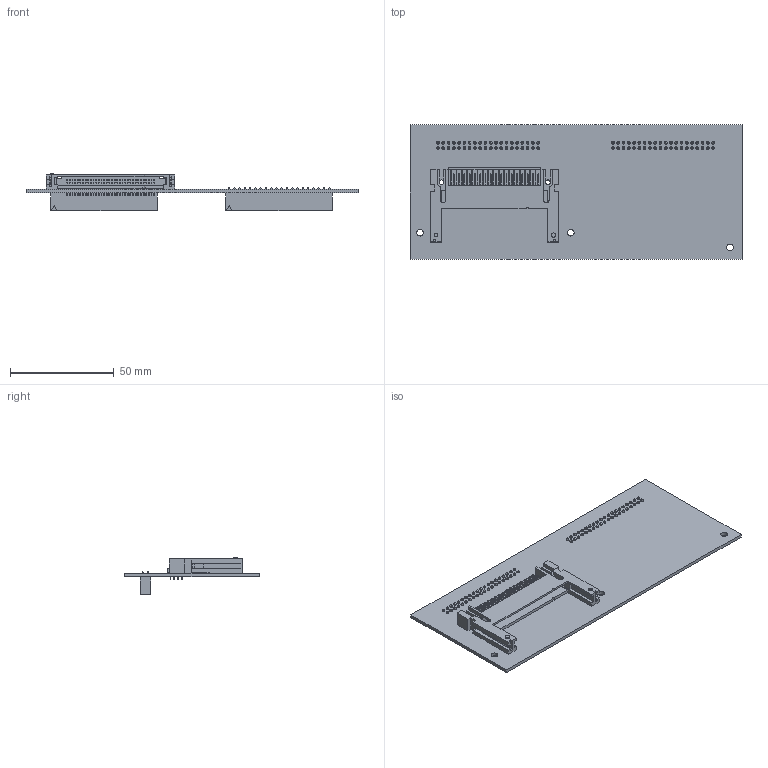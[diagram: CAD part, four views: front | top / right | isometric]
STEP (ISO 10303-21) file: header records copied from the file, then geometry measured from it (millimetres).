
FILE_DESCRIPTION(('KiCad electronic assembly'),'2;1');
FILE_NAME('Thales_Flashprogrammer_v3_FlashCard.step', '2024-09-04T15:04:13',('Pcbnew'),('Kicad'), 'Open CASCADE STEP processor 7.5','KiCad to STEP converter','Unknown' );
FILE_SCHEMA(('AUTOMOTIVE_DESIGN { 1 0 10303 214 1 1 1 1 }'));
Length unit declared in the file: millimetre
Products named in the file (6): Thales_Flashprogrammer_v3_FlashCard 1; 5535653-1; C-5535653-1; SSW-120-01-G-D; ASSEMBLY; Thales_Flashprogrammer_v3_FlashCard PCB
Assembly tree (6 placements, depth 3):
  Thales_Flashprogrammer_v3_FlashCard 1
    5535653-1
      C-5535653-1
    SSW-120-01-G-D  x2
      ASSEMBLY
    Thales_Flashprogrammer_v3_FlashCard PCB
Bounding box: 160 x 65 x 17.86 mm (x, y, z)
Volume: 24882.1 mm3; surface area: 35296.7 mm2
Topology: 84 solids, 84 shells, 2669 faces, 5947 edges, 3658 vertices
Faces by surface type: plane 1822, cylinder 711, torus 136
Full cylindrical faces by diameter (mm): 0.84 x68, 1.3 x80, 2.36 x2, 3.2 x3
Entity records: 111490 total; most frequent: CARTESIAN_POINT 20293, DIRECTION 17901, LINE 10265, VECTOR 10265, ORIENTED_EDGE 8652, PCURVE 8652, DEFINITIONAL_REPRESENTATION 8652, EDGE_CURVE 4326
